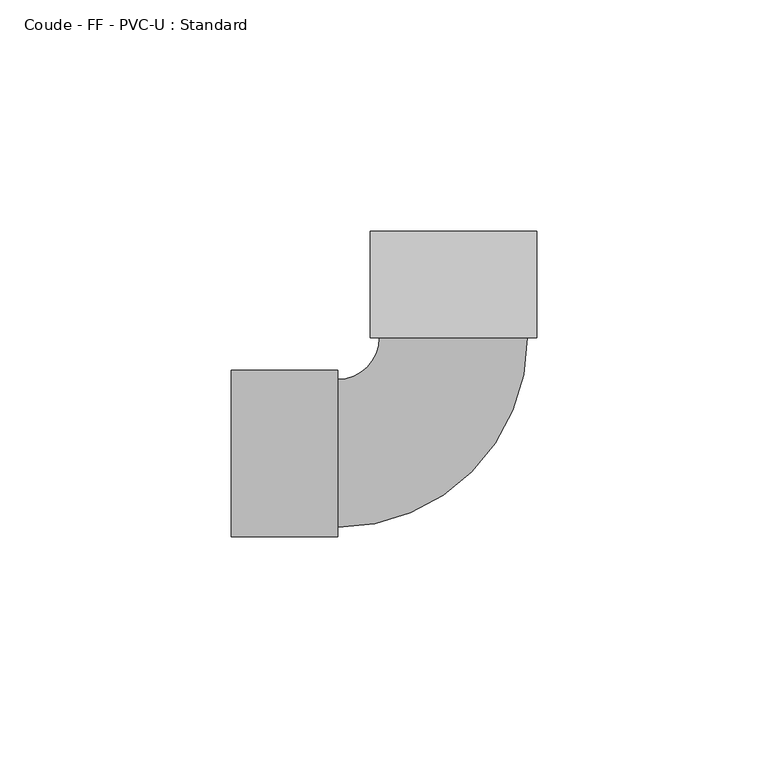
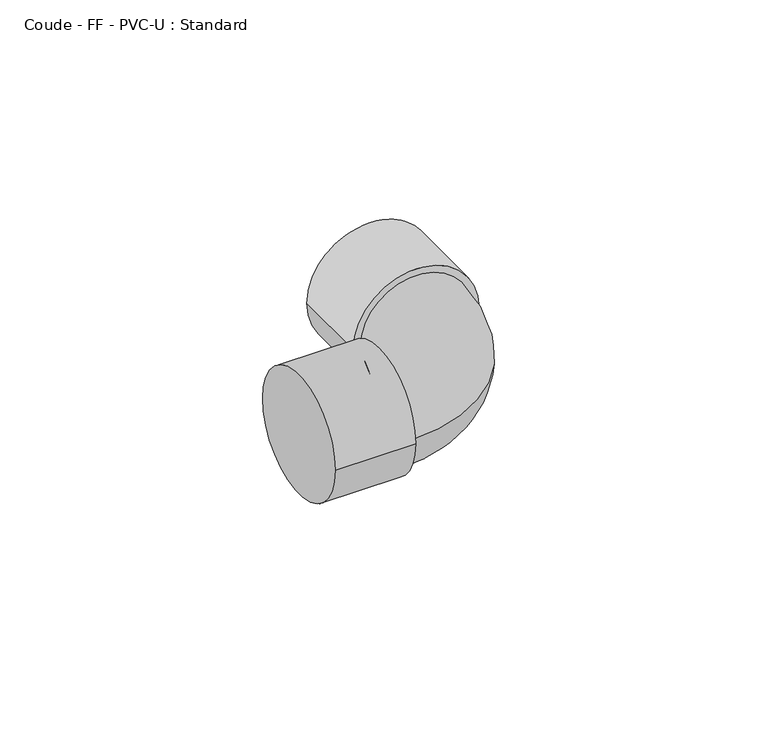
"""IFC4 building model written with IfcOpenShell, lengths in millimetres: pipe fitting geometry, Coude - FF - PVC-U : Standard."""

import ifcopenshell
import ifcopenshell.guid

model = None  # the IFC model being written
_history = None  # IfcOwnerHistory: only IFC2X3 demands one
_inside = {}  # id of a spatial element -> (the spatial element, [elements in it])
_under = {}  # id of a project, library or spatial element -> (it, [spatial elements below it])
_declared = {}  # id of a project -> (the project, [libraries it declares])
_typed = {}  # id of a type object -> (the type object, [elements of that type])
_made_of = {}  # id of a material, layer set ... -> (it, [elements and type objects made of it])


def new_model(schema):
    """Start an empty IFC model of exactly this schema.

    Asked for "IFC4X3", IfcOpenShell would pick the latest addendum, in which some entities
    have other attributes; the version numbers below select the first issue.
    IFC2X3 requires an IfcOwnerHistory on every rooted entity: one is made here for all.
    """
    global model, _history
    if schema == "IFC4X3":
        model = ifcopenshell.file(schema_version=(4, 3, 0, 0))
    else:
        model = ifcopenshell.file(schema=schema)
    _inside.clear()
    _under.clear()
    _declared.clear()
    _typed.clear()
    _made_of.clear()
    _history = None
    if model.schema == "IFC2X3":
        org = make("IfcOrganization", Name="unknown")
        user = make(
            "IfcPersonAndOrganization",
            ThePerson=make("IfcPerson", FamilyName="unknown"),
            TheOrganization=org,
        )
        app = make(
            "IfcApplication",
            ApplicationDeveloper=org,
            Version="unknown",
            ApplicationFullName="unknown",
            ApplicationIdentifier="unknown",
        )
        _history = make(
            "IfcOwnerHistory",
            OwningUser=user,
            OwningApplication=app,
            ChangeAction="ADDED",
            CreationDate=0,
        )
    return model


def make(cls, **values):
    """One entity of the class cls with the attributes given. An attribute that is None is left unset."""
    return model.create_entity(
        cls, **{name: value for name, value in values.items() if value is not None}
    )


def rooted(cls, **values):
    """An entity with a GlobalId (a new one), such as an element, a storey or a relation."""
    return make(cls, GlobalId=ifcopenshell.guid.new(), OwnerHistory=_history, **values)


def si_unit(unit_type, name, prefix=None):
    """IfcSIUnit, for example si_unit("LENGTHUNIT", "METRE", prefix="MILLI")."""
    return make("IfcSIUnit", UnitType=unit_type, Prefix=prefix, Name=name)


def assignment(units):
    """IfcUnitAssignment: the units of a project."""
    return None if units is None else make("IfcUnitAssignment", Units=units)


def point(xyz):
    """IfcCartesianPoint."""
    return None if xyz is None else make("IfcCartesianPoint", Coordinates=xyz)


def direction(xyz):
    """IfcDirection."""
    return None if xyz is None else make("IfcDirection", DirectionRatios=xyz)


def frame(location, z_axis=None, x_axis=None):
    """IfcAxis2Placement3D, a coordinate frame: its origin and axes. An axis left out is left unset."""
    return make(
        "IfcAxis2Placement3D",
        Location=point(location),
        Axis=direction(z_axis),
        RefDirection=direction(x_axis),
    )


def origin():
    """The frame at (0, 0, 0) with its axes left unset."""
    return frame((0.0, 0.0, 0.0))


def place(relative_to, where):
    """IfcLocalPlacement: puts the frame where relative to a parent placement (None: the world)."""
    return make(
        "IfcLocalPlacement", PlacementRelTo=relative_to, RelativePlacement=where
    )


def context(
    kind, dimensions, precision=None, world=None, true_north=None, identifier=None
):
    """IfcGeometricRepresentationContext, for example the 3D "Model" context."""
    return make(
        "IfcGeometricRepresentationContext",
        ContextIdentifier=identifier,
        ContextType=kind,
        CoordinateSpaceDimension=dimensions,
        Precision=precision,
        WorldCoordinateSystem=world,
        TrueNorth=true_north,
    )


def project(units=None, contexts=None):
    """IfcProject with its units and contexts."""
    return rooted(
        "IfcProject",
        Name="project",
        RepresentationContexts=contexts,
        UnitsInContext=assignment(units),
    )


def spatial(cls, under=None, at=None, **own):
    """A site, building, storey or space (cls), placed at a placement, below another one or the project."""
    s = rooted(cls, ObjectPlacement=at, **own)
    if under is not None:
        _under.setdefault(under.id(), (under, []))[1].append(s)
    return s


def circle_curve(where, radius):
    """IfcCircle in the frame where."""
    return make("IfcCircle", Position=where, Radius=radius)


def ellipse_curve(where, semi_axis1, semi_axis2):
    """IfcEllipse in the frame where."""
    return make(
        "IfcEllipse", Position=where, SemiAxis1=semi_axis1, SemiAxis2=semi_axis2
    )


def trimmed(basis, trim1, trim2, sense, master):
    """IfcTrimmedCurve: the piece of a basis curve between two trims."""
    return make(
        "IfcTrimmedCurve",
        BasisCurve=basis,
        Trim1=trim1,
        Trim2=trim2,
        SenseAgreement=sense,
        MasterRepresentation=master,
    )


def shape(context_of_items, identifier, shape_type, items):
    """IfcShapeRepresentation: the items that make up one representation, for example the "Body"."""
    return make(
        "IfcShapeRepresentation",
        ContextOfItems=context_of_items,
        RepresentationIdentifier=identifier,
        RepresentationType=shape_type,
        Items=items,
    )


def source(mapping_origin, context_of_items, identifier, shape_type, items):
    """IfcRepresentationMap: a shape defined once, which mapped items show again and again."""
    return make(
        "IfcRepresentationMap",
        MappingOrigin=mapping_origin,
        MappedRepresentation=shape(context_of_items, identifier, shape_type, items),
    )


def transform(
    local_origin,
    x_axis=None,
    y_axis=None,
    z_axis=None,
    scale=None,
    scale2=None,
    scale3=None,
    uniform=True,
):
    """IfcCartesianTransformationOperator3D, or its non-uniform kind. x_axis, y_axis, z_axis: its Axis1, 2, 3."""
    if uniform:
        return make(
            "IfcCartesianTransformationOperator3D",
            Axis1=direction(x_axis),
            Axis2=direction(y_axis),
            LocalOrigin=point(local_origin),
            Scale=scale,
            Axis3=direction(z_axis),
        )
    return make(
        "IfcCartesianTransformationOperator3DnonUniform",
        Axis1=direction(x_axis),
        Axis2=direction(y_axis),
        LocalOrigin=point(local_origin),
        Scale=scale,
        Axis3=direction(z_axis),
        Scale2=scale2,
        Scale3=scale3,
    )


def mapped(mapping_source, mapping_target):
    """IfcMappedItem: shows the shape of a source again, moved by a transform."""
    return make(
        "IfcMappedItem", MappingSource=mapping_source, MappingTarget=mapping_target
    )


def made_of(thing, what):
    """Note that an element or type object is made of a material, layer set ...; save() writes the relation."""
    if what is not None:
        _made_of.setdefault(what.id(), (what, []))[1].append(thing)
    return thing


def element(
    cls,
    number,
    at=None,
    inside=None,
    cuts=None,
    type_object=None,
    material=None,
    context=None,
    identifier="Body",
    shape_type=None,
    held_by="IfcProductDefinitionShape",
    body=None,
    shapes=None,
    **own,
):
    """One element of the class cls, such as IfcWall. Its Tag is "e" and its number.

    at: its placement. inside: the storey or other place that contains it. cuts: it is an
    opening in that element (IfcRelVoidsElement). A single representation is given by context,
    identifier, shape_type and body (its items); several are given by shapes. held_by: the class
    of the entity that holds the representations. save() writes the other relations.
    """
    e = rooted(cls, Tag="e%d" % number, ObjectPlacement=at, **own)
    if body is not None:
        shapes = [shape(context, identifier, shape_type, body)]
    if shapes is not None:
        e.Representation = make(held_by, Representations=shapes)
    if inside is not None:
        _inside.setdefault(inside.id(), (inside, []))[1].append(e)
    if cuts is not None:
        rooted(
            "IfcRelVoidsElement", RelatingBuildingElement=cuts, RelatedOpeningElement=e
        )
    if type_object is not None:
        _typed.setdefault(type_object.id(), (type_object, []))[1].append(e)
    return made_of(e, material)


def aggregate(whole, parts):
    """IfcRelAggregates: a whole, such as a stair, and the parts it consists of."""
    return rooted("IfcRelAggregates", RelatingObject=whole, RelatedObjects=parts)


def save(model, path):
    """Write the relations noted so far, then the file.

    IfcRelAggregates (storeys below a building ...), IfcRelContainedInSpatialStructure (elements
    in a storey), IfcRelDefinesByType, IfcRelAssociatesMaterial and IfcRelDeclares: one each for
    every whole, place, type object, material and project.
    """
    for whole, parts in _under.values():
        aggregate(whole, parts)
    for where, things in _inside.values():
        rooted(
            "IfcRelContainedInSpatialStructure",
            RelatedElements=things,
            RelatingStructure=where,
        )
    for kind, things in _typed.values():
        rooted("IfcRelDefinesByType", RelatedObjects=things, RelatingType=kind)
    for what, things in _made_of.values():
        rooted("IfcRelAssociatesMaterial", RelatedObjects=things, RelatingMaterial=what)
    for by, libraries in _declared.values():
        rooted("IfcRelDeclares", RelatingContext=by, RelatedDefinitions=libraries)
    model.write(path)


def plane_surface(at):
    """IfcPlane: the flat surface through the origin of the frame at, square to its z axis."""
    return make("IfcPlane", Position=at)


def cylinder_surface(at, radius):
    """IfcCylindricalSurface: all points at the distance radius from the z axis of the frame at."""
    return make("IfcCylindricalSurface", Position=at, Radius=radius)


def revolved_surface(curve, axis_point, axis_direction):
    """IfcSurfaceOfRevolution: the curve turned about the line through axis_point along axis_direction."""
    return make(
        "IfcSurfaceOfRevolution",
        SweptCurve=make("IfcArbitraryOpenProfileDef", ProfileType="CURVE", Curve=curve),
        AxisPosition=make("IfcAxis1Placement", Location=point(axis_point), Axis=direction(axis_direction)),
    )


def advanced_brep(points, edges, surfaces, faces):
    """IfcAdvancedBrep: a solid bounded by faces that lie on surfaces and meet in shared edges.

    An edge is (start, end): straight between two places in points (the first is 0);
    or (start, end, curve); or (start, end, curve, False) where it runs against its curve.
    A face is (place in surfaces, loops), or (place, loops, False) where it looks against
    its surface's normal. A loop lists edges by number (the first is 1), with a minus sign
    where the edge is run from its end to its start. The first loop is the outer one.
    """
    corners = [point(p) for p in points]
    vertices = [make("IfcVertexPoint", VertexGeometry=c) for c in corners]
    made = []
    for start, end, *more in edges:
        made.append(
            make(
                "IfcEdgeCurve",
                EdgeStart=vertices[start],
                EdgeEnd=vertices[end],
                EdgeGeometry=more[0] if more else make("IfcPolyline", Points=[corners[start], corners[end]]),
                SameSense=more[1] if len(more) > 1 else True,
            )
        )
    hull = []
    for where, loops, *sense in faces:
        bounds = []
        for j, loop in enumerate(loops):
            ring = [make("IfcOrientedEdge", EdgeElement=made[abs(k) - 1], Orientation=k > 0) for k in loop]
            bounds.append(
                make(
                    "IfcFaceOuterBound" if j == 0 else "IfcFaceBound",
                    Bound=make("IfcEdgeLoop", EdgeList=ring),
                    Orientation=True,
                )
            )
        hull.append(make("IfcAdvancedFace", Bounds=bounds, FaceSurface=surfaces[where], SameSense=sense[0] if sense else True))
    return make("IfcAdvancedBrep", Outer=make("IfcClosedShell", CfsFaces=hull))


def coude_ff_pvc_u_standard_6e6e4d7c(model_context):
    return source(origin(), model_context, "Body", "AdvancedBrep", [
        advanced_brep(
        [(-48.0, -18.0, 0.0), (-48.0, 18.0, 0.0), (-25.0, -18.0, 0.0), (-25.0, 18.0, 0.0), (-25.0, -16.0, 0.0), (-25.0, 16.0, 0.0), (-16.000725, 24.999536, 0.0), (15.999275, 25.000464, 0.0), (17.999275, 25.000522, 0.0), (-18.000725, 24.999478, 0.0), (17.998608, 48.000522, 0.0), (-18.0013919, 47.999478, 0.0)],
        [
            (0, 1, circle_curve(frame((-48.0, 0.0, 0.0), z_axis=(-1.0, 0.0, 0.0), x_axis=(0.0, 1.0, 0.0)), 18.0)),
            (1, 0, circle_curve(frame((-48.0, 0.0, 0.0), z_axis=(-1.0, 0.0, 0.0), x_axis=(0.0, 1.0, 0.0)), 18.0)),
            (2, 3, circle_curve(frame((-25.0, 0.0, 0.0), z_axis=(1.0, 0.0, 0.0), x_axis=(0.0, 1.0, 0.0)), 18.0)),
            (3, 2, circle_curve(frame((-25.0, 0.0, 0.0), z_axis=(1.0, 0.0, 0.0), x_axis=(0.0, 1.0, 0.0)), 18.0)),
            (4, 5, circle_curve(frame((-25.0, 0.0, 0.0), z_axis=(-1.0, 0.0, 0.0), x_axis=(0.0, 1.0, 0.0)), 16.0)),
            (5, 4, circle_curve(frame((-25.0, 0.0, 0.0), z_axis=(-1.0, 0.0, 0.0), x_axis=(0.0, 1.0, 0.0)), 16.0)),
            (0, 2),
            (3, 1),
            (6, 5, circle_curve(frame((-25.0, 24.999275, 0.0), z_axis=(0.0, 0.0, -1.0), x_axis=(0.0, -1.0, 0.0)), 8.999275)),
            (4, 7, circle_curve(frame((-25.0, 24.999275, 0.0), z_axis=(0.0, 0.0, 1.0), x_axis=(0.0, -1.0, 0.0)), 40.999275)),
            (7, 6, circle_curve(frame((-0.000725, 25.0, 0.0), z_axis=(2.8998826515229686e-05, -0.999999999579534, 0.0), x_axis=(-0.999999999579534, -2.8998826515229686e-05, 0.0)), 16.0)),
            (6, 7, circle_curve(frame((-0.000725, 25.0, 0.0), z_axis=(2.8998826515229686e-05, -0.999999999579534, 0.0), x_axis=(-0.999999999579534, -2.8998826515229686e-05, 0.0)), 16.0)),
            (8, 9, circle_curve(frame((-0.000725, 25.0, 0.0), z_axis=(2.8998826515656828e-05, -0.999999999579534, 0.0), x_axis=(-0.999999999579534, -2.8998826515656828e-05, 0.0)), 18.0)),
            (9, 8, circle_curve(frame((-0.000725, 25.0, 0.0), z_axis=(2.8998826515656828e-05, -0.999999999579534, 0.0), x_axis=(-0.999999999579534, -2.8998826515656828e-05, 0.0)), 18.0)),
            (10, 11, circle_curve(frame((-0.0013919, 48.0, 0.0), z_axis=(-2.8998826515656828e-05, 0.999999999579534, 0.0), x_axis=(-0.999999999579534, -2.8998826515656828e-05, 0.0)), 18.0)),
            (11, 10, circle_curve(frame((-0.0013919, 48.0, 0.0), z_axis=(-2.8998826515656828e-05, 0.999999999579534, 0.0), x_axis=(-0.999999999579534, -2.8998826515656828e-05, 0.0)), 18.0)),
            (8, 10),
            (11, 9),
        ],
        [
            plane_surface(frame((-48.0, 0.0, 0.0), z_axis=(-1.0, 0.0, 0.0), x_axis=(0.0, 0.0, 1.0))),
            plane_surface(frame((-25.0, 0.0, 0.0), z_axis=(1.0, 0.0, 0.0), x_axis=(0.0, 0.0, 1.0))),
            cylinder_surface(frame((-48.0, 0.0, 0.0), z_axis=(-1.0, 0.0, 0.0), x_axis=(0.0, 1.0, 0.0)), 18.0),
            revolved_surface(trimmed(ellipse_curve(frame((-25.0, 0.0, 0.0), z_axis=(-1.0, 0.0, 0.0), x_axis=(0.0, 1.0, 0.0)), 16.0, 16.0), [point((-25.0, -16.0, 0.0))], [point((-25.0, 16.0, 0.0))], True, "CARTESIAN"), (-25.0, 24.999275, 0.0), (0.0, 0.0, 1.0)),
            revolved_surface(trimmed(ellipse_curve(frame((-25.0, 0.0, 0.0), z_axis=(-1.0, 0.0, 0.0), x_axis=(0.0, 1.0, 0.0)), 16.0, 16.0), [point((-25.0, 16.0, 0.0))], [point((-25.0, -16.0, 0.0))], True, "CARTESIAN"), (-25.0, 24.999275, 0.0), (0.0, 0.0, 1.0)),
            plane_surface(frame((-0.000725, 25.0, 0.0), z_axis=(2.8998826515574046e-05, -0.999999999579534, 0.0), x_axis=(0.0, 0.0, 1.0))),
            plane_surface(frame((-0.0013919, 48.0, 0.0), z_axis=(-2.8998826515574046e-05, 0.999999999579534, 0.0), x_axis=(0.0, 0.0, 1.0))),
            cylinder_surface(frame((-0.000725, 25.0, 0.0), z_axis=(2.8998826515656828e-05, -0.999999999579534, 0.0), x_axis=(-0.999999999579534, -2.8998826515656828e-05, 0.0)), 18.0),
        ],
        [
            (0, [[1, 2]]),
            (1, [[3, 4], [5, 6]]),
            (2, [[-1, 7, -4, 8]]),
            (2, [[-2, -8, -3, -7]]),
            (3, [[9, -5, 10, 11]]),
            (4, [[-9, 12, -10, -6]]),
            (5, [[13, 14], [-11, -12]]),
            (6, [[15, 16]]),
            (7, [[-13, 17, -16, 18]]),
            (7, [[-14, -18, -15, -17]]),
        ],
    ),
    ])


if __name__ == "__main__":
    model = new_model("IFC4")
    model_context = context("Model", 3, world=origin())
    ifc_project = project(units=[si_unit("LENGTHUNIT", "METRE", prefix="MILLI")], contexts=[model_context])
    site = spatial("IfcSite", under=ifc_project)
    building = spatial("IfcBuilding", under=site)
    placement = place(None, origin())
    coude_ff_pvc_u_standard_shape = coude_ff_pvc_u_standard_6e6e4d7c(model_context)
    element("IfcPipeFitting", 1, ObjectType="Coude - FF - PVC-U : Standard", at=placement, inside=building, context=model_context, shape_type="MappedRepresentation", body=[
        mapped(coude_ff_pvc_u_standard_shape, transform((0.0, 0.0, 0.0), x_axis=(1.0, 0.0, 0.0), y_axis=(0.0, 1.0, 0.0), z_axis=(0.0, 0.0, 1.0))),
    ])
    save(model, "model.ifc")
